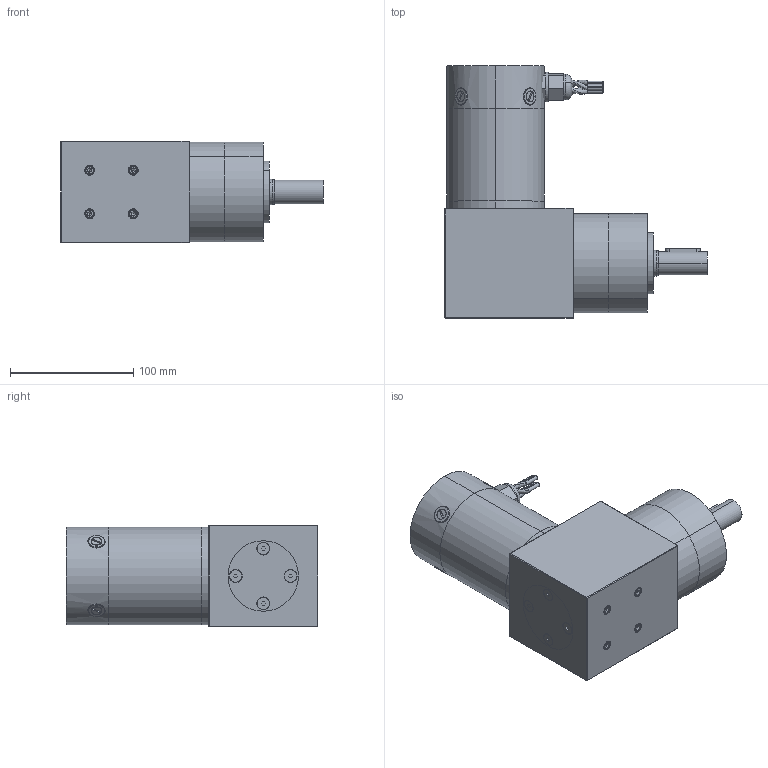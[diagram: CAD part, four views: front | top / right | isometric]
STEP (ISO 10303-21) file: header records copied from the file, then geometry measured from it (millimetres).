
FILE_DESCRIPTION (( 'STEP AP203' ), '1' );
FILE_NAME ('d33455agra1.step', '2018-12-07T19:37:54', ( '' ), ( '' ), 'SwSTEP 2.0', 'SolidWorks 2017', '' );
FILE_SCHEMA (( 'CONFIG_CONTROL_DESIGN' ));
Products named in the file (1): d33455agra1
Bounding box: 213.32 x 204.5 x 82.55 mm (x, y, z)
Volume: 1674127.4 mm3; surface area: 205040.7 mm2
Topology: 29 solids, 29 shells, 1229 faces, 3087 edges, 1961 vertices
Faces by surface type: cylinder 713, plane 364, cone 89, torus 39, bspline 16, sphere 8
Entity records: 56619 total; most frequent: CARTESIAN_POINT 29736, ORIENTED_EDGE 6126, DIRECTION 5186, EDGE_CURVE 3063, VERTEX_POINT 1961, AXIS2_PLACEMENT_3D 1955, EDGE_LOOP 1334, LINE 1276
